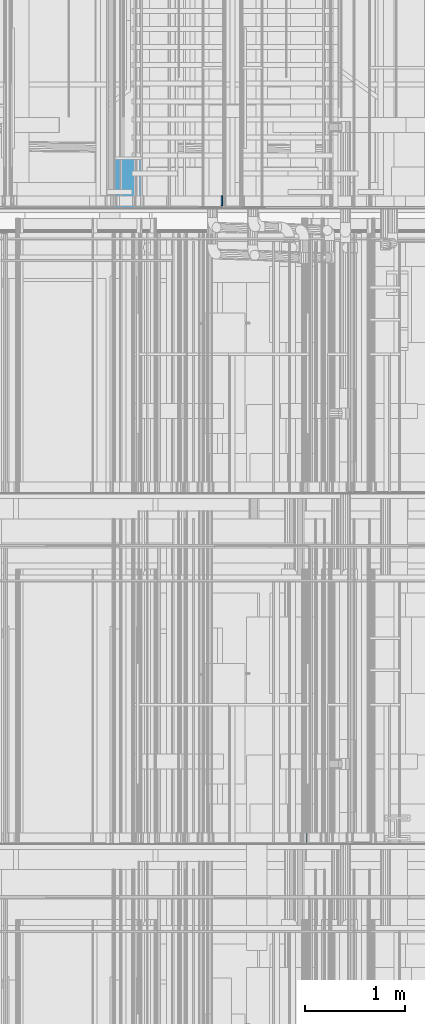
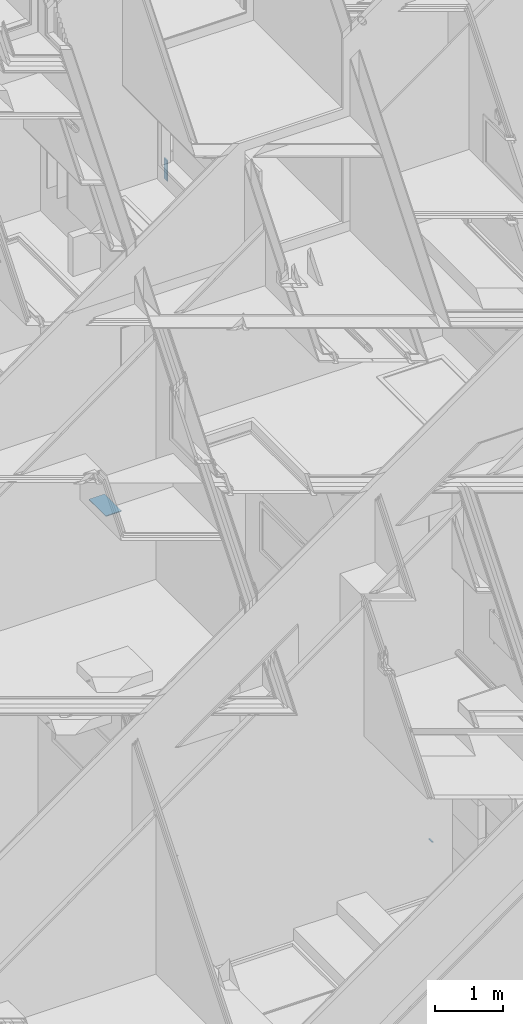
# One storey, part 32 of 583: 3 walls, 1 opening.
"""IFC2X3 building model written with IfcOpenShell, lengths in metres."""

from ifc_helpers import new_model, entity, si_unit, converted_unit, derived_unit, money_unit, direction, frame, frame_2d, origin_with_axes, place, context, subcontext, project, spatial, polyline, rectangle, outline, extrude, material, type_object, element, save


model = new_model("IFC2X3")

# Units and contexts
model_context = context("Model", 3, precision=1e-05, world=origin_with_axes(), true_north=direction((0.0, 1.0)))
body_context = subcontext(model_context, "Body", "Model", "MODEL_VIEW", scale=1.0)
ifc_project = project(units=[si_unit("LENGTHUNIT", "METRE"), si_unit("AREAUNIT", "SQUARE_METRE"), si_unit("VOLUMEUNIT", "CUBIC_METRE"), si_unit("ABSORBEDDOSEUNIT", "GRAY"), si_unit("AMOUNTOFSUBSTANCEUNIT", "MOLE"), si_unit("DOSEEQUIVALENTUNIT", "SIEVERT"), si_unit("ELECTRICCAPACITANCEUNIT", "FARAD"), si_unit("ELECTRICCHARGEUNIT", "COULOMB"), si_unit("ELECTRICCONDUCTANCEUNIT", "SIEMENS"), si_unit("ELECTRICCURRENTUNIT", "AMPERE"), si_unit("ELECTRICRESISTANCEUNIT", "OHM"), si_unit("ELECTRICVOLTAGEUNIT", "VOLT"), si_unit("ENERGYUNIT", "JOULE"), si_unit("FORCEUNIT", "NEWTON"), si_unit("FREQUENCYUNIT", "HERTZ"), si_unit("ILLUMINANCEUNIT", "LUX"), si_unit("INDUCTANCEUNIT", "HENRY"), si_unit("LUMINOUSFLUXUNIT", "LUMEN"), si_unit("LUMINOUSINTENSITYUNIT", "CANDELA"), si_unit("MAGNETICFLUXDENSITYUNIT", "TESLA"), si_unit("MAGNETICFLUXUNIT", "WEBER"), si_unit("MASSUNIT", "GRAM"), converted_unit("PLANEANGLEUNIT", "degree", entity("IfcReal", 0.0174532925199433), si_unit("PLANEANGLEUNIT", "RADIAN"), dimensions=[0, 0, 0, 0, 0, 0, 0]), si_unit("POWERUNIT", "WATT"), si_unit("PRESSUREUNIT", "PASCAL"), si_unit("RADIOACTIVITYUNIT", "BECQUEREL"), si_unit("SOLIDANGLEUNIT", "STERADIAN"), si_unit("THERMODYNAMICTEMPERATUREUNIT", "KELVIN"), si_unit("TIMEUNIT", "SECOND"), derived_unit("ACCELERATIONUNIT", [(si_unit("LENGTHUNIT", "METRE"), 1), (si_unit("TIMEUNIT", "SECOND"), -2)]), derived_unit("ANGULARVELOCITYUNIT", [(converted_unit("PLANEANGLEUNIT", "degree", entity("IfcReal", 0.0174532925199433), si_unit("PLANEANGLEUNIT", "RADIAN"), dimensions=[0, 0, 0, 0, 0, 0, 0]), 1), (si_unit("TIMEUNIT", "SECOND"), -1)]), derived_unit("CURVATUREUNIT", [(converted_unit("PLANEANGLEUNIT", "degree", entity("IfcReal", 0.0174532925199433), si_unit("PLANEANGLEUNIT", "RADIAN"), dimensions=[0, 0, 0, 0, 0, 0, 0]), 1), (si_unit("LENGTHUNIT", "METRE"), -1)]), derived_unit("DYNAMICVISCOSITYUNIT", [(si_unit("PRESSUREUNIT", "PASCAL"), 1), (si_unit("TIMEUNIT", "SECOND"), 1)]), derived_unit("HEATFLUXDENSITYUNIT", [(si_unit("POWERUNIT", "WATT"), 1), (si_unit("LENGTHUNIT", "METRE"), -2)]), derived_unit("HEATINGVALUEUNIT", [(si_unit("ENERGYUNIT", "JOULE"), 1), (si_unit("MASSUNIT", "GRAM"), -1)]), derived_unit("INTEGERCOUNTRATEUNIT", [(si_unit("TIMEUNIT", "SECOND"), -1)]), derived_unit("IONCONCENTRATIONUNIT", [(si_unit("MASSUNIT", "GRAM"), 1), (si_unit("VOLUMEUNIT", "CUBIC_METRE"), -1)]), derived_unit("ISOTHERMALMOISTURECAPACITYUNIT", [(si_unit("VOLUMEUNIT", "CUBIC_METRE"), 1), (si_unit("MASSUNIT", "GRAM"), -1)]), derived_unit("KINEMATICVISCOSITYUNIT", [(si_unit("AREAUNIT", "SQUARE_METRE"), 1), (si_unit("TIMEUNIT", "SECOND"), -1)]), derived_unit("LINEARFORCEUNIT", [(si_unit("FORCEUNIT", "NEWTON"), 1), (si_unit("LENGTHUNIT", "METRE"), -1)]), derived_unit("LINEARMOMENTUNIT", [(si_unit("FORCEUNIT", "NEWTON"), 1), (si_unit("LENGTHUNIT", "METRE"), -1)]), derived_unit("LINEARSTIFFNESSUNIT", [(si_unit("FORCEUNIT", "NEWTON"), 1), (si_unit("LENGTHUNIT", "METRE"), -1)]), derived_unit("LINEARVELOCITYUNIT", [(si_unit("LENGTHUNIT", "METRE"), 1), (si_unit("TIMEUNIT", "SECOND"), -1)]), derived_unit("LUMINOUSINTENSITYDISTRIBUTIONUNIT", [(si_unit("LUMINOUSINTENSITYUNIT", "CANDELA"), 1), (si_unit("LUMINOUSFLUXUNIT", "LUMEN"), -1)]), derived_unit("MASSDENSITYUNIT", [(si_unit("MASSUNIT", "GRAM"), 1), (si_unit("VOLUMEUNIT", "CUBIC_METRE"), -1)]), derived_unit("MASSFLOWRATEUNIT", [(si_unit("MASSUNIT", "GRAM"), 1), (si_unit("TIMEUNIT", "SECOND"), -1)]), derived_unit("MASSPERLENGTHUNIT", [(si_unit("MASSUNIT", "GRAM"), 1), (si_unit("LENGTHUNIT", "METRE"), -1)]), derived_unit("MODULUSOFELASTICITYUNIT", [(si_unit("FORCEUNIT", "NEWTON"), 1), (si_unit("AREAUNIT", "SQUARE_METRE"), -1)]), derived_unit("MODULUSOFLINEARSUBGRADEREACTIONUNIT", [(si_unit("FORCEUNIT", "NEWTON"), 1), (si_unit("LENGTHUNIT", "METRE"), -2)]), derived_unit("MODULUSOFROTATIONALSUBGRADEREACTIONUNIT", [(si_unit("FORCEUNIT", "NEWTON"), 1), (si_unit("LENGTHUNIT", "METRE"), 1)]), derived_unit("MODULUSOFSUBGRADEREACTIONUNIT", [(si_unit("FORCEUNIT", "NEWTON"), 1), (si_unit("VOLUMEUNIT", "CUBIC_METRE"), -1)]), derived_unit("MOISTUREDIFFUSIVITYUNIT", [(si_unit("VOLUMEUNIT", "CUBIC_METRE"), 1), (si_unit("TIMEUNIT", "SECOND"), -1)]), derived_unit("MOLECULARWEIGHTUNIT", [(si_unit("MASSUNIT", "GRAM"), 1), (si_unit("AMOUNTOFSUBSTANCEUNIT", "MOLE"), -1)]), derived_unit("PLANARFORCEUNIT", [(si_unit("FORCEUNIT", "NEWTON"), 1), (si_unit("LENGTHUNIT", "METRE"), -2)]), derived_unit("ROTATIONALFREQUENCYUNIT", [(si_unit("TIMEUNIT", "SECOND"), -1)]), derived_unit("ROTATIONALMASSUNIT", [(si_unit("MASSUNIT", "GRAM"), 1), (si_unit("LENGTHUNIT", "METRE"), 2)]), derived_unit("ROTATIONALSTIFFNESSUNIT", [(si_unit("FORCEUNIT", "NEWTON"), 1), (si_unit("LENGTHUNIT", "METRE"), 1), (converted_unit("PLANEANGLEUNIT", "degree", entity("IfcReal", 0.0174532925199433), si_unit("PLANEANGLEUNIT", "RADIAN"), dimensions=[0, 0, 0, 0, 0, 0, 0]), -1)]), derived_unit("SECTIONAREAINTEGRALUNIT", [(si_unit("LENGTHUNIT", "METRE"), 5)]), derived_unit("SECTIONMODULUSUNIT", [(si_unit("LENGTHUNIT", "METRE"), 3)]), derived_unit("SHEARMODULUSUNIT", [(si_unit("FORCEUNIT", "NEWTON"), 1), (si_unit("AREAUNIT", "SQUARE_METRE"), -1)]), derived_unit("SOUNDPOWERUNIT", [(si_unit("ENERGYUNIT", "JOULE"), 1), (si_unit("TIMEUNIT", "SECOND"), -1)]), derived_unit("SPECIFICHEATCAPACITYUNIT", [(si_unit("FORCEUNIT", "NEWTON"), 1), (si_unit("MASSUNIT", "GRAM"), -1), (si_unit("THERMODYNAMICTEMPERATUREUNIT", "KELVIN"), -1)]), derived_unit("TEMPERATUREGRADIENTUNIT", [(si_unit("THERMODYNAMICTEMPERATUREUNIT", "KELVIN"), 1), (si_unit("LENGTHUNIT", "METRE"), -1)]), derived_unit("THERMALADMITTANCEUNIT", [(si_unit("POWERUNIT", "WATT"), 1), (si_unit("AREAUNIT", "SQUARE_METRE"), -1), (si_unit("THERMODYNAMICTEMPERATUREUNIT", "KELVIN"), -1)]), derived_unit("THERMALCONDUCTANCEUNIT", [(si_unit("POWERUNIT", "WATT"), 1), (si_unit("LENGTHUNIT", "METRE"), -1), (si_unit("THERMODYNAMICTEMPERATUREUNIT", "KELVIN"), -1)]), derived_unit("THERMALEXPANSIONCOEFFICIENTUNIT", [(si_unit("THERMODYNAMICTEMPERATUREUNIT", "KELVIN"), -1)]), derived_unit("THERMALRESISTANCEUNIT", [(si_unit("AREAUNIT", "SQUARE_METRE"), 1), (si_unit("POWERUNIT", "WATT"), -1)]), derived_unit("THERMALTRANSMITTANCEUNIT", [(si_unit("POWERUNIT", "WATT"), 1), (si_unit("AREAUNIT", "SQUARE_METRE"), -1), (si_unit("THERMODYNAMICTEMPERATUREUNIT", "KELVIN"), -1)]), derived_unit("TORQUEUNIT", [(si_unit("FORCEUNIT", "NEWTON"), 1), (si_unit("LENGTHUNIT", "METRE"), 1)]), derived_unit("VAPORPERMEABILITYUNIT", [(si_unit("MASSUNIT", "GRAM"), 1), (si_unit("TIMEUNIT", "SECOND"), -1)]), derived_unit("VOLUMETRICFLOWRATEUNIT", [(si_unit("VOLUMEUNIT", "CUBIC_METRE"), 1), (si_unit("TIMEUNIT", "SECOND"), -1)]), derived_unit("WARPINGCONSTANTUNIT", [(si_unit("LENGTHUNIT", "METRE"), 6)]), derived_unit("WARPINGMOMENTUNIT", [(si_unit("FORCEUNIT", "NEWTON"), 1), (si_unit("LENGTHUNIT", "METRE"), 2)]), money_unit("GBP")], contexts=[model_context])

# Site, building, storey
site_placement = place(None, origin_with_axes())
site = spatial("IfcSite", under=ifc_project, at=site_placement, Name="Site", CompositionType="ELEMENT")
building_placement = place(site_placement, origin_with_axes())
building = spatial("IfcBuilding", under=site, at=building_placement, Name="Building01", CompositionType="ELEMENT")
storey_placement = place(building_placement, frame((0.0, 0.0, 20.78), z_axis=(0.0, 0.0, 1.0), x_axis=(1.0, 0.0, 0.0)))
storey = spatial("IfcBuildingStorey", under=building, at=storey_placement, Name="RL", CompositionType="ELEMENT", Elevation=20.78)

# Wall, opening
ifc_material = material(Name="A_BSUK_Walls_Timber")
wall_type = type_object("IfcWallType", Name="default", PredefinedType="NOTDEFINED")
wall_1_placement = place(storey_placement, frame((7.349939, 14.995, -11.72), z_axis=(0.0, 1.0, 0.0), x_axis=(0.0, 0.0, -1.0)))
wall_1 = element("IfcWall", 1, at=wall_1_placement, inside=storey, type_object=wall_type, material=ifc_material, Name="default", ObjectType="default", context=body_context, shape_type="SweptSolid", body=[
    extrude(outline(polyline([(0.015, 0.015), (0.0, 0.0), (1.458, 0.0), (1.458, 0.015), (0.015, 0.015)])), origin_with_axes(), (0.0, 0.0, 1.0), 0.1),
])
opening_placement = place(wall_1_placement, frame((0.374, 0.0, -0.015), z_axis=(0.0, 0.0, 1.0), x_axis=(1.0, 0.0, 0.0)))
element("IfcOpeningElement", 2, at=opening_placement, cuts=wall_1, Name="Opening", ObjectType="Opening", context=body_context, shape_type="SweptSolid", body=[
    extrude(rectangle(XDim=2.142, YDim=1.084, at=frame_2d((-0.542, 1.071), x_axis=(0.0, -1.0))), frame((0.0, 0.0, 0.0), z_axis=(0.0, 1.0, 0.0), x_axis=(-1.0, 0.0, 0.0)), (0.0, 0.0, 1.0), 0.015),
])

# Walls
wall_2_placement = place(storey_placement, frame((6.279939, 14.98, -17.740024), z_axis=(0.0, 1.0, 0.0), x_axis=(1.0, 0.0, 0.0)))
element("IfcWall", 3, at=wall_2_placement, inside=storey, type_object=wall_type, material=ifc_material, Name="default", ObjectType="default", context=body_context, shape_type="SweptSolid", body=[
    extrude(rectangle(XDim=0.27, YDim=0.015, at=frame_2d((0.135, 0.0075), x_axis=(-1.0, 0.0))), origin_with_axes(), (0.0, 0.0, 1.0), 0.5),
])
wall_3_placement = place(storey_placement, frame((8.21067, 8.655, -20.462), z_axis=(0.0, 1.0, 0.0), x_axis=(-1.0, 0.0, 0.0)))
element("IfcWall", 4, at=wall_3_placement, inside=storey, type_object=wall_type, material=ifc_material, Name="default", ObjectType="default", context=body_context, shape_type="SweptSolid", body=[
    extrude(rectangle(XDim=0.02567, YDim=0.015, at=frame_2d((0.012835, 0.0075), x_axis=(1.0, 0.0))), origin_with_axes(), (0.0, 0.0, 1.0), 0.1),
])

save(model, "model.ifc")
